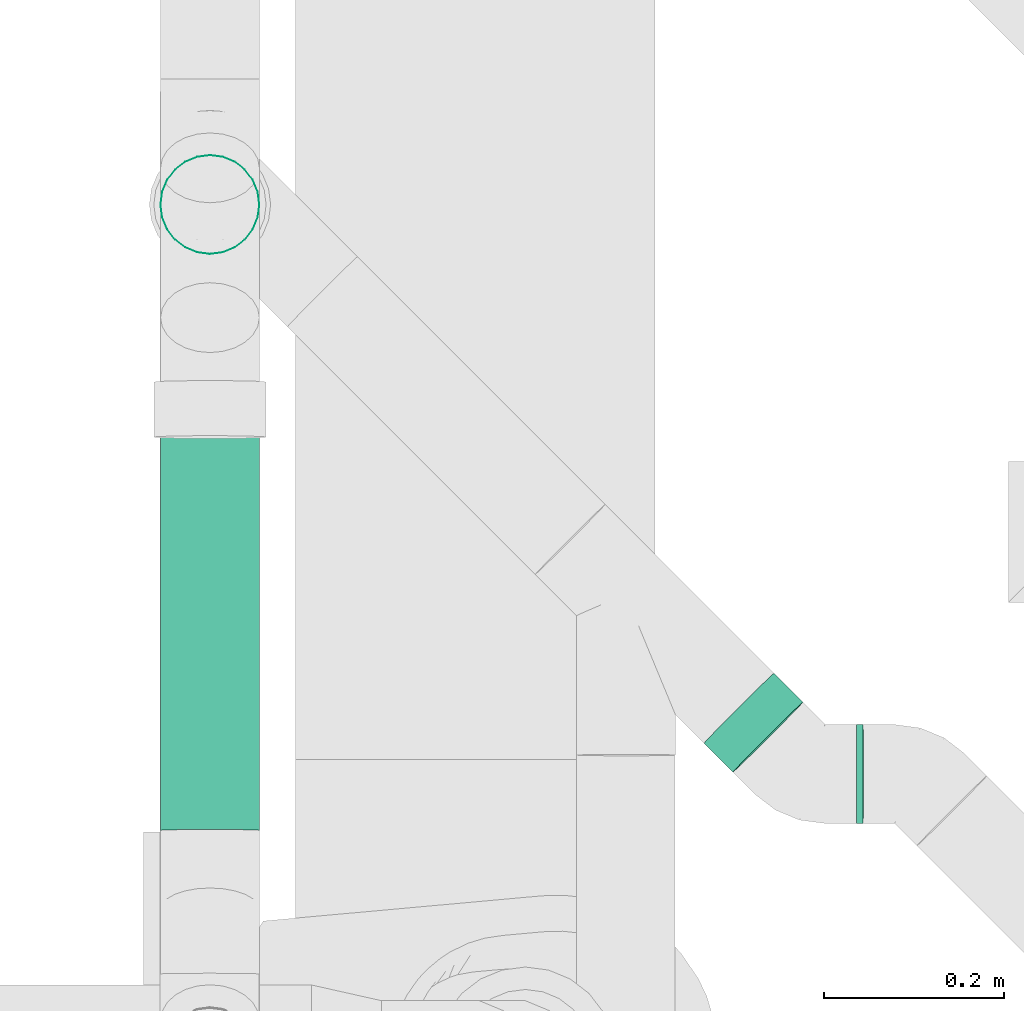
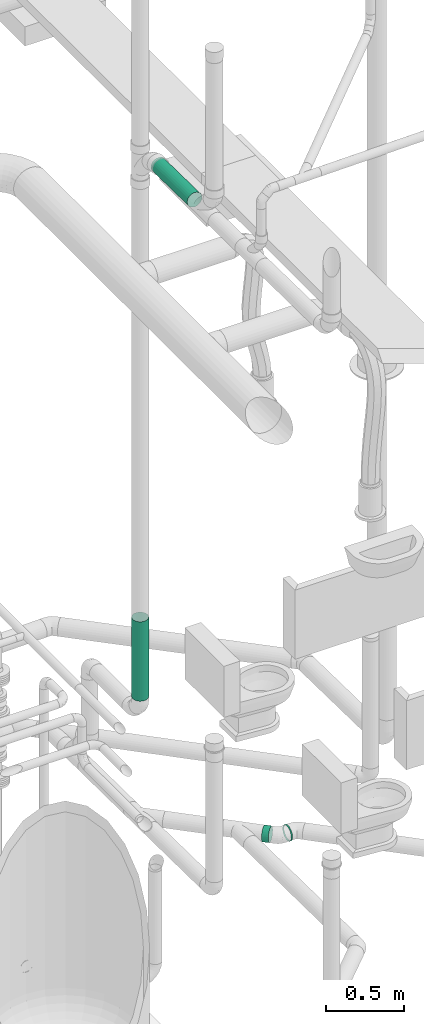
# One storey, part 302 of 374: 4 flow segments.
"""IFC2X3 building model written with IfcOpenShell, lengths in metres."""

from ifc_helpers import new_model, si_unit, direction, origin, place, context, subcontext, project, spatial, open_shell, surface_model, source, transform, mapped, element, save


model = new_model("IFC2X3")

# Units and contexts
model_context = context("Model", 3, precision=1e-05, world=origin(), true_north=direction((-0.4480736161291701, 0.8939966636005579)))
body_context = subcontext(model_context, "Body", "Model", "MODEL_VIEW")
ifc_project = project(units=[si_unit("LENGTHUNIT", "METRE"), si_unit("AREAUNIT", "SQUARE_METRE"), si_unit("VOLUMEUNIT", "CUBIC_METRE"), si_unit("PLANEANGLEUNIT", "RADIAN"), si_unit("THERMODYNAMICTEMPERATUREUNIT", "KELVIN"), si_unit("MASSUNIT", "GRAM", prefix="KILO"), si_unit("TIMEUNIT", "SECOND")], contexts=[model_context])

# Site, building, storey
site_placement = place(None, origin())
site = spatial("IfcSite", under=ifc_project, at=site_placement, Name="Site 1", CompositionType="ELEMENT")
building_placement = place(site_placement, origin())
building = spatial("IfcBuilding", under=site, at=building_placement, Name="Undefined", CompositionType="ELEMENT")
storey_placement = place(building_placement, origin())
storey = spatial("IfcBuildingStorey", under=building, at=storey_placement, Name="Rez de chauss\x8ee", CompositionType="ELEMENT", Elevation=0.0)

# Flow segments
shared_shape_1 = source(origin(), body_context, "Body", "SurfaceModel", [
    surface_model("IfcFaceBasedSurfaceModel", [(0.0, 0.014357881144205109, -3.552713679e-15), (0.0, 0.0, 0.0), (0.04556324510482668, 7.105427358e-15, 0.0), (0.04556324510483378, 0.014357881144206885, 8.8817842e-16), (0.0, -0.01386864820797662, -0.0037160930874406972), (0.04556324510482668, -0.013868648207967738, -0.003716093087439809), (0.0, -0.026302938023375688, -0.010895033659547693), (0.04556324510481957, -0.026302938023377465, -0.010895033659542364), (0.0, -0.03645549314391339, -0.021047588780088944), (0.045563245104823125, -0.03645549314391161, -0.02104758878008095), (0.0, -0.04363443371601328, -0.033481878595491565), (0.04556324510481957, -0.04363443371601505, -0.03348187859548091), (0.0, -0.04735052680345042, -0.04735052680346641), (0.04556324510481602, -0.047350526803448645, -0.047350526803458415), (0.0, -0.04735052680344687, -0.06170840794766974), (0.04556324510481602, -0.047350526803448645, -0.06170840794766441), (0.0, -0.04363443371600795, -0.07557705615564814), (0.04556324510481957, -0.04363443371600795, -0.07557705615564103), (0.0, -0.03645549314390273, -0.08801134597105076), (0.04556324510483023, -0.03645549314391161, -0.08801134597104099), (0.0, -0.026302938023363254, -0.0981639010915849), (0.045563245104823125, -0.02630293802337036, -0.09816390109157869), (0.0, -0.013868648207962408, -0.1053428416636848), (0.04556324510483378, -0.013868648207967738, -0.10534284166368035), (0.0, 1.5987211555e-14, -0.10905893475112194), (0.04556324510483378, 7.105427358e-15, -0.10905893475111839), (0.0, 0.014357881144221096, -0.10905893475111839), (0.045563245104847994, 0.01435788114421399, -0.1090589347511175), (0.0, 0.028226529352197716, -0.10534284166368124), (0.045563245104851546, 0.02822652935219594, -0.10534284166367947), (0.0, 0.040660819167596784, -0.0981639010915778), (0.0455632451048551, 0.040660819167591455, -0.09816390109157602), (0.0, 0.05081337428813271, -0.08801134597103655), (0.04556324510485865, 0.0508133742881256, -0.08801134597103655), (0.0, 0.05799231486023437, -0.07557705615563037), (0.04556324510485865, 0.057992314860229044, -0.07557705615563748), (0.0, 0.06170840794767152, -0.06170840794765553), (0.04556324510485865, 0.06170840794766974, -0.06170840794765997), (0.0, 0.061708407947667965, -0.0473505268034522), (0.04556324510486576, 0.061708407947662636, -0.04735052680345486), (0.0, 0.05799231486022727, -0.033481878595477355), (0.045563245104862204, 0.05799231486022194, -0.03348187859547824), (0.0, 0.050813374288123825, -0.021047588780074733), (0.04556324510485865, 0.0508133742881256, -0.021047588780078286), (0.0, 0.04066081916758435, -0.010895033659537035), (0.045563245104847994, 0.040660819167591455, -0.010895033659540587), (0.0, 0.028226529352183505, -0.0037160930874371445), (0.04556324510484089, 0.028226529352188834, -0.0037160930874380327)], [open_shell([[[0, 1, 2, 3]], [[1, 4, 5, 2]], [[4, 6, 7, 5]], [[6, 8, 9, 7]], [[8, 10, 11, 9]], [[10, 12, 13, 11]], [[12, 14, 15, 13]], [[14, 16, 17, 15]], [[16, 18, 19, 17]], [[18, 20, 21, 19]], [[20, 22, 23, 21]], [[22, 24, 25, 23]], [[24, 26, 27, 25]], [[26, 28, 29, 27]], [[28, 30, 31, 29]], [[30, 32, 33, 31]], [[32, 34, 35, 33]], [[34, 36, 37, 35]], [[36, 38, 39, 37]], [[38, 40, 41, 39]], [[40, 42, 43, 41]], [[42, 44, 45, 43]], [[44, 46, 47, 45]], [[46, 0, 3, 47]]])]),
])
flow_segment_1_placement = place(storey_placement, origin())
element("IfcFlowSegment", 1, at=flow_segment_1_placement, inside=storey, Name="PE-HD tuyau", ObjectType="PE-HD tuyau", context=body_context, shape_type="MappedRepresentation", body=[
    mapped(shared_shape_1, transform((57.65227918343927, 13.19118140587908, -1.1296893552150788), x_axis=(0.7070272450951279, -0.7070272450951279, 0.014998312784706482), y_axis=(0.7002982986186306, 0.7029361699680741, 0.12435044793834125), z_axis=(-0.0984620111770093, -0.07741586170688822, 0.9921250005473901))),
])
shared_shape_2 = source(origin(), body_context, "Body", "SurfaceModel", [
    surface_model("IfcFaceBasedSurfaceModel", [(0.0, 0.0, 0.0), (0.014357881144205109, -1.4210854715e-14, 0.0), (0.014357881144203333, 0.007202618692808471, -4.4408921e-16), (0.0, 0.007202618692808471, 4.4408921e-16), (0.028226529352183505, 0.0, -0.0037160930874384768), (0.028226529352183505, 0.007202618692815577, -0.0037160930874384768), (0.040660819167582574, 0.0, -0.01089503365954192), (0.0406608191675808, 0.007202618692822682, -0.01089503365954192), (0.050813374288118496, 0.0, -0.021047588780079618), (0.05081337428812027, 0.007202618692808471, -0.021047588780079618), (0.057992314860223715, 0.0, -0.033481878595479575), (0.057992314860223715, 0.007202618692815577, -0.03348187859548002), (0.061708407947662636, 7.105427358e-15, -0.04735052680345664), (0.06170840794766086, 0.007202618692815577, -0.04735052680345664), (0.06170840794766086, 0.0, -0.06170840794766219), (0.061708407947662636, 0.007202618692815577, -0.061708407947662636), (0.05799231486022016, 7.105427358e-15, -0.0755770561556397), (0.05799231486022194, 0.007202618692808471, -0.0755770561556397), (0.05081337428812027, 0.0, -0.08801134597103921), (0.05081337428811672, 0.007202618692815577, -0.08801134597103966), (0.0406608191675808, -7.105427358e-15, -0.09816390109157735), (0.0406608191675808, 0.007202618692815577, -0.09816390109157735), (0.02822652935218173, -7.105427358e-15, -0.10534284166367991), (0.028226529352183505, 0.007202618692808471, -0.10534284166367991), (0.014357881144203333, 0.0, -0.10905893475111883), (0.014357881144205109, 0.007202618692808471, -0.10905893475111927), (0.0, 1.5987211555e-14, -0.10905893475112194), (-1.776356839e-15, 0.007202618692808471, -0.10905893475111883), (-0.013868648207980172, -7.105427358e-15, -0.10534284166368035), (-0.013868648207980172, 0.007202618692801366, -0.10534284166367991), (-0.026302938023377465, -7.105427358e-15, -0.09816390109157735), (-0.02630293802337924, 0.007202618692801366, -0.09816390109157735), (-0.03645549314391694, -7.105427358e-15, -0.08801134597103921), (-0.03645549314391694, 0.007202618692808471, -0.08801134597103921), (-0.043634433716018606, -7.105427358e-15, -0.07557705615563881), (-0.04363443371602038, 0.007202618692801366, -0.07557705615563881), (-0.0473505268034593, -7.105427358e-15, -0.06170840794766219), (-0.0473505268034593, 0.007202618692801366, -0.06170840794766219), (-0.0473505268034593, -7.105427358e-15, -0.04735052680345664), (-0.0473505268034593, 0.007202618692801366, -0.047350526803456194), (-0.04363443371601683, -1.4210854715e-14, -0.03348187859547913), (-0.043634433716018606, 0.007202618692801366, -0.03348187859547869), (-0.03645549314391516, -1.4210854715e-14, -0.021047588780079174), (-0.03645549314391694, 0.007202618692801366, -0.021047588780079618), (-0.026302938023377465, -7.105427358e-15, -0.010895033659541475), (-0.026302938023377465, 0.007202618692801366, -0.010895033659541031), (-0.013868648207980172, 7.105427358e-15, -0.0037160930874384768), (-0.013868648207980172, 0.007202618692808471, -0.0037160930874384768)], [open_shell([[[0, 1, 2, 3]], [[1, 4, 5, 2]], [[4, 6, 7, 5]], [[6, 8, 9, 7]], [[8, 10, 11, 9]], [[10, 12, 13, 11]], [[12, 14, 15, 13]], [[14, 16, 17, 15]], [[16, 18, 19, 17]], [[18, 20, 21, 19]], [[20, 22, 23, 21]], [[22, 24, 25, 23]], [[24, 26, 27, 25]], [[26, 28, 29, 27]], [[28, 30, 31, 29]], [[30, 32, 33, 31]], [[32, 34, 35, 33]], [[34, 36, 37, 35]], [[36, 38, 39, 37]], [[38, 40, 41, 39]], [[40, 42, 43, 41]], [[42, 44, 45, 43]], [[44, 46, 47, 45]], [[46, 0, 3, 47]]])]),
])
flow_segment_2_placement = place(storey_placement, origin())
element("IfcFlowSegment", 2, at=flow_segment_2_placement, inside=storey, Name="PE-HD tuyau", ObjectType="PE-HD tuyau", context=body_context, shape_type="MappedRepresentation", body=[
    mapped(shared_shape_2, transform((57.79403127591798, 13.126482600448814, -1.2359783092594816), x_axis=(-0.0006261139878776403, 0.9932909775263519, 0.11564013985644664), y_axis=(0.9999806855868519, -9.31666059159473e-05, 0.006214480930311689), z_axis=(0.0061835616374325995, 0.11564179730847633, -0.993271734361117))),
])
shared_shape_3 = source(origin(), body_context, "Body", "SurfaceModel", [
    surface_model("IfcFaceBasedSurfaceModel", [(6.121950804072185e-07, 0.014357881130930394, 0.0), (0.0, 0.0, 0.0), (0.46472076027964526, 0.0, 0.0), (0.4647213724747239, 0.014357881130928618, 0.0), (-5.704749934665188e-07, -0.013868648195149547, -0.0037160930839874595), (0.46472018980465, -0.013868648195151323, -0.003716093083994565), (-1.0603529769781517e-06, -0.026302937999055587, -0.010895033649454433), (0.4647196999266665, -0.026302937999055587, -0.010895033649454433), (-1.4362495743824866e-06, -0.036455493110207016, -0.02104758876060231), (0.4647193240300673, -0.03645549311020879, -0.021047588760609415), (-1.6725480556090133e-06, -0.04363443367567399, -0.033481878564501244), (0.4647190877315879, -0.043634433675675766, -0.033481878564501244), (-1.753145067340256e-06, -0.047350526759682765, -0.04735052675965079), (0.46471900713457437, -0.047350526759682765, -0.04735052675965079), (-1.6725480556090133e-06, -0.04735052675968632, -0.06170840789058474), (0.4647190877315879, -0.047350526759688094, -0.06170840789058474), (-1.4362495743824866e-06, -0.0436344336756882, -0.07557705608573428), (0.4647193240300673, -0.043634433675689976, -0.07557705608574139), (-1.0603529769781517e-06, -0.03645549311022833, -0.08801134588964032), (0.4647196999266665, -0.03645549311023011, -0.08801134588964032), (-5.704749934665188e-07, -0.026302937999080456, -0.0981639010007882), (0.46472018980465, -0.026302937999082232, -0.0981639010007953), (0.0, -0.013868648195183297, -0.10534284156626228), (0.46472076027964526, -0.013868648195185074, -0.10534284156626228), (6.121950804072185e-07, -3.3750779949e-14, -0.10905893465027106), (0.4647213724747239, -3.3750779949e-14, -0.10905893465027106), (1.2243901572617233e-06, 0.014357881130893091, -0.10905893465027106), (0.46472198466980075, 0.014357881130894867, -0.10905893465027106), (1.7948651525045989e-06, 0.028226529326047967, -0.10534284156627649), (0.464722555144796, 0.02822652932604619, -0.10534284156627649), (2.284743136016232e-06, 0.040660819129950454, -0.09816390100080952), (0.4647230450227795, 0.040660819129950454, -0.09816390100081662), (2.6606397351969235e-06, 0.05081337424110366, -0.08801134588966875), (0.4647234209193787, 0.05081337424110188, -0.08801134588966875), (2.8969382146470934e-06, 0.05799231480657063, -0.07557705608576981), (0.46472365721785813, 0.05799231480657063, -0.07557705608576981), (2.977535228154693e-06, 0.06170840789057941, -0.06170840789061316), (0.46472373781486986, 0.06170840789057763, -0.06170840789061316), (2.8969382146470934e-06, 0.06170840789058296, -0.04735052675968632), (0.46472365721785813, 0.06170840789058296, -0.04735052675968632), (2.6606397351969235e-06, 0.057992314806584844, -0.03348187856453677), (0.4647234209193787, 0.05799231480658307, -0.03348187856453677), (2.284743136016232e-06, 0.050813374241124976, -0.021047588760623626), (0.4647230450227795, 0.050813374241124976, -0.02104758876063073), (1.7948651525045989e-06, 0.040660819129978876, -0.01089503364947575), (0.464722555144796, 0.0406608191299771, -0.01089503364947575), (1.2243901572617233e-06, 0.028226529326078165, -0.003716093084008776), (0.46472198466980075, 0.02822652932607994, -0.003716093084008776)], [open_shell([[[0, 1, 2, 3]], [[1, 4, 5, 2]], [[4, 6, 7, 5]], [[6, 8, 9, 7]], [[8, 10, 11, 9]], [[10, 12, 13, 11]], [[12, 14, 15, 13]], [[14, 16, 17, 15]], [[16, 18, 19, 17]], [[18, 20, 21, 19]], [[20, 22, 23, 21]], [[22, 24, 25, 23]], [[24, 26, 27, 25]], [[26, 28, 29, 27]], [[28, 30, 31, 29]], [[30, 32, 33, 31]], [[32, 34, 35, 33]], [[34, 36, 37, 35]], [[36, 38, 39, 37]], [[38, 40, 41, 39]], [[40, 42, 43, 41]], [[42, 44, 45, 43]], [[44, 46, 47, 45]], [[46, 0, 3, 47]]])]),
])
flow_segment_3_placement = place(storey_placement, origin())
element("IfcFlowSegment", 3, at=flow_segment_3_placement, inside=storey, Name="PE-HD tuyau", ObjectType="PE-HD tuyau", context=body_context, shape_type="MappedRepresentation", body=[
    mapped(shared_shape_3, transform((57.020874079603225, 13.064817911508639, 4.069406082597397), x_axis=(0.0, 0.9998473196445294, -0.017473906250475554), y_axis=(-0.1305261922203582, -0.01732441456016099, -0.9912934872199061), z_axis=(-0.9914448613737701, 0.0022808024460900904, 0.13050626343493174))),
])
shared_shape_4 = source(origin(), body_context, "Body", "SurfaceModel", [
    surface_model("IfcFaceBasedSurfaceModel", [(0.0, 0.014357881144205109, -3.552713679e-15), (0.0, 0.0, 0.0), (0.6204048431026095, 0.0, 0.0), (0.6204048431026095, 0.014357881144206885, 0.0), (0.0, -0.01386864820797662, -0.0037160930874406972), (0.6204048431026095, -0.013868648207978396, -0.003716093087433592), (0.0, -0.026302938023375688, -0.010895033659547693), (0.6204048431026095, -0.026302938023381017, -0.010895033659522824), (0.0, -0.03645549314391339, -0.021047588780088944), (0.6204048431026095, -0.03645549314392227, -0.02104758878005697), (0.0, -0.04363443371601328, -0.033481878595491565), (0.6204048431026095, -0.043634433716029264, -0.03348187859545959), (0.0, -0.04735052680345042, -0.04735052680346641), (0.6204048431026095, -0.047350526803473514, -0.04735052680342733), (0.0, -0.04735052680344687, -0.06170840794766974), (0.6204048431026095, -0.04735052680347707, -0.061708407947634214), (0.0, -0.04363443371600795, -0.07557705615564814), (0.6204048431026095, -0.043634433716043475, -0.07557705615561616), (0.0, -0.03645549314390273, -0.08801134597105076), (0.6204048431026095, -0.03645549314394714, -0.08801134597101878), (0.0, -0.026302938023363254, -0.0981639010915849), (0.6204048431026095, -0.02630293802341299, -0.09816390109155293), (0.0, -0.013868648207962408, -0.1053428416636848), (0.6204048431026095, -0.013868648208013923, -0.10534284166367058), (0.0, 1.5987211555e-14, -0.10905893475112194), (0.6204048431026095, -3.9079850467e-14, -0.10905893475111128), (0.0, 0.014357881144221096, -0.10905893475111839), (0.6204048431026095, 0.014357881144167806, -0.10905893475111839), (0.0, 0.028226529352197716, -0.10534284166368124), (0.6204048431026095, 0.0282265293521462, -0.10534284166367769), (0.0, 0.040660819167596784, -0.0981639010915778), (0.6204048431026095, 0.04066081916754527, -0.09816390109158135), (0.0, 0.05081337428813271, -0.08801134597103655), (0.6204048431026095, 0.050813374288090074, -0.08801134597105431), (0.0, 0.05799231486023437, -0.07557705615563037), (0.6204048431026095, 0.05799231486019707, -0.07557705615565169), (0.0, 0.06170840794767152, -0.06170840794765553), (0.6204048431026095, 0.06170840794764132, -0.06170840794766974), (0.0, 0.061708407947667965, -0.0473505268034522), (0.6204048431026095, 0.06170840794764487, -0.04735052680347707), (0.0, 0.05799231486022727, -0.033481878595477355), (0.6204048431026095, 0.05799231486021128, -0.03348187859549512), (0.0, 0.050813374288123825, -0.021047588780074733), (0.6204048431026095, 0.05081337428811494, -0.02104758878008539), (0.0, 0.04066081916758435, -0.010895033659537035), (0.6204048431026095, 0.0406608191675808, -0.01089503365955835), (0.0, 0.028226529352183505, -0.0037160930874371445), (0.6204048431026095, 0.02822652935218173, -0.0037160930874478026)], [open_shell([[[0, 1, 2, 3]], [[1, 4, 5, 2]], [[4, 6, 7, 5]], [[6, 8, 9, 7]], [[8, 10, 11, 9]], [[10, 12, 13, 11]], [[12, 14, 15, 13]], [[14, 16, 17, 15]], [[16, 18, 19, 17]], [[18, 20, 21, 19]], [[20, 22, 23, 21]], [[22, 24, 25, 23]], [[24, 26, 27, 25]], [[26, 28, 29, 27]], [[28, 30, 31, 29]], [[30, 32, 33, 31]], [[32, 34, 35, 33]], [[34, 36, 37, 35]], [[36, 38, 39, 37]], [[38, 40, 41, 39]], [[40, 42, 43, 41]], [[42, 44, 45, 43]], [[44, 46, 47, 45]], [[46, 0, 3, 47]]])]),
])
flow_segment_4_placement = place(storey_placement, origin())
element("IfcFlowSegment", 4, at=flow_segment_4_placement, inside=storey, Name="PE-HD tuyau", ObjectType="PE-HD tuyau", context=body_context, shape_type="MappedRepresentation", body=[
    mapped(shared_shape_4, transform((57.0208740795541, 13.775235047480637, 0.37370092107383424), x_axis=(0.0, 0.0, -1.0), y_axis=(-0.13052619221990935, -0.9914448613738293, 0.0), z_axis=(-0.9914448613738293, 0.13052619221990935, 0.0))),
])

save(model, "model.ifc")
